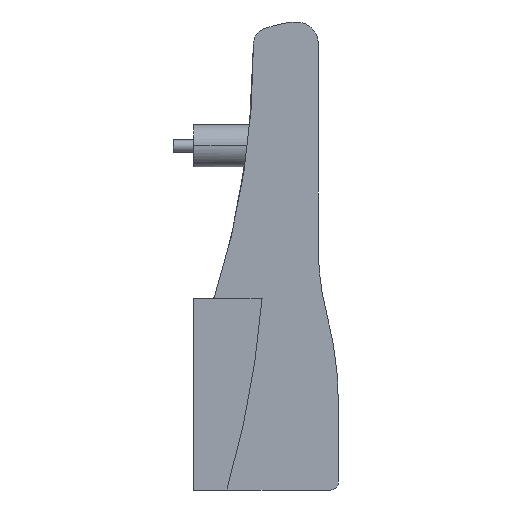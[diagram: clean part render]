
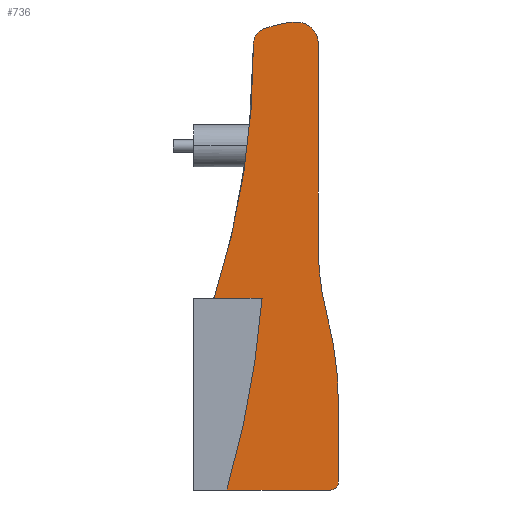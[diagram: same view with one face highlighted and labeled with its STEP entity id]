
A CAD part, front view. The second image highlights one B-rep face of the part: STEP entity #736.
In plain terms, the highlighted planar face has unit normal (0, -1, 0).
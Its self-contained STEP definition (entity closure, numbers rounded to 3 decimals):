
#7 = AXIS2_PLACEMENT_3D ( 'NONE', #2092, #2093, #2094 ) ;
#8 = AXIS2_PLACEMENT_3D ( 'NONE', #2087, #2088, #2089 ) ;
#11 = CIRCLE ( 'NONE', #61, 348.5 ) ;
#13 = VECTOR ( 'NONE', #2121, 1000. ) ;
#18 = AXIS2_PLACEMENT_3D ( 'NONE', #2082, #2083, #2084 ) ;
#32 = CIRCLE ( 'NONE', #18, 8. ) ;
#33 = CIRCLE ( 'NONE', #8, 40. ) ;
#48 = CIRCLE ( 'NONE', #7, 6. ) ;
#61 = AXIS2_PLACEMENT_3D ( 'NONE', #2126, #2127, #2128 ) ;
#75 = VECTOR ( 'NONE', #2078, 1000. ) ;
#83 = AXIS2_PLACEMENT_3D ( 'NONE', #2067, #2068, #2069 ) ;
#93 = CIRCLE ( 'NONE', #205, 99. ) ;
#101 = CIRCLE ( 'NONE', #325, 300. ) ;
#137 = VECTOR ( 'NONE', #1892, 1000. ) ;
#155 = CIRCLE ( 'NONE', #232, 3. ) ;
#179 = CIRCLE ( 'NONE', #83, 132.8 ) ;
#205 = AXIS2_PLACEMENT_3D ( 'NONE', #2073, #2074, #2075 ) ;
#226 = AXIS2_PLACEMENT_3D ( 'NONE', #2714, #2720, #2721 ) ;
#232 = AXIS2_PLACEMENT_3D ( 'NONE', #2052, #2053, #2054 ) ;
#235 = CIRCLE ( 'NONE', #306, 6. ) ;
#281 = VECTOR ( 'NONE', #2061, 1000. ) ;
#306 = AXIS2_PLACEMENT_3D ( 'NONE', #1562, #1563, #1564 ) ;
#325 = AXIS2_PLACEMENT_3D ( 'NONE', #1901, #1902, #1903 ) ;
#378 = EDGE_LOOP ( 'NONE', ( #1400, #1401, #1402, #1403, #1404, #1405, #1406, #1222, #589, #590, #591, #592, #594 ) ) ;
#589 = ORIENTED_EDGE ( 'NONE', *, *, #1499, .T. ) ;
#590 = ORIENTED_EDGE ( 'NONE', *, *, #770, .T. ) ;
#591 = ORIENTED_EDGE ( 'NONE', *, *, #1500, .T. ) ;
#592 = ORIENTED_EDGE ( 'NONE', *, *, #1453, .T. ) ;
#594 = ORIENTED_EDGE ( 'NONE', *, *, #1450, .T. ) ;
#736 = ADVANCED_FACE ( 'NONE', ( #2717 ), #2718, .T. ) ;
#770 = EDGE_CURVE ( 'NONE', #1160, #1150, #235, .T. ) ;
#1113 = VERTEX_POINT ( 'NONE', #1689 ) ;
#1120 = VERTEX_POINT ( 'NONE', #1696 ) ;
#1121 = VERTEX_POINT ( 'NONE', #1697 ) ;
#1122 = VERTEX_POINT ( 'NONE', #1698 ) ;
#1125 = VERTEX_POINT ( 'NONE', #1701 ) ;
#1127 = VERTEX_POINT ( 'NONE', #1703 ) ;
#1128 = VERTEX_POINT ( 'NONE', #1704 ) ;
#1150 = VERTEX_POINT ( 'NONE', #1726 ) ;
#1160 = VERTEX_POINT ( 'NONE', #1736 ) ;
#1184 = VERTEX_POINT ( 'NONE', #1760 ) ;
#1185 = VERTEX_POINT ( 'NONE', #1761 ) ;
#1205 = VERTEX_POINT ( 'NONE', #1781 ) ;
#1207 = VERTEX_POINT ( 'NONE', #1775 ) ;
#1222 = ORIENTED_EDGE ( 'NONE', *, *, #1498, .T. ) ;
#1400 = ORIENTED_EDGE ( 'NONE', *, *, #1512, .T. ) ;
#1401 = ORIENTED_EDGE ( 'NONE', *, *, #1510, .T. ) ;
#1402 = ORIENTED_EDGE ( 'NONE', *, *, #1487, .T. ) ;
#1403 = ORIENTED_EDGE ( 'NONE', *, *, #1490, .T. ) ;
#1404 = ORIENTED_EDGE ( 'NONE', *, *, #1492, .T. ) ;
#1405 = ORIENTED_EDGE ( 'NONE', *, *, #1494, .T. ) ;
#1406 = ORIENTED_EDGE ( 'NONE', *, *, #1496, .T. ) ;
#1450 = EDGE_CURVE ( 'NONE', #1185, #1205, #1879, .T. ) ;
#1453 = EDGE_CURVE ( 'NONE', #1184, #1185, #101, .T. ) ;
#1487 = EDGE_CURVE ( 'NONE', #1128, #1125, #155, .T. ) ;
#1490 = EDGE_CURVE ( 'NONE', #1125, #1207, #2051, .T. ) ;
#1492 = EDGE_CURVE ( 'NONE', #1207, #1127, #179, .T. ) ;
#1494 = EDGE_CURVE ( 'NONE', #1127, #1121, #93, .T. ) ;
#1496 = EDGE_CURVE ( 'NONE', #1121, #1120, #2072, .T. ) ;
#1498 = EDGE_CURVE ( 'NONE', #1120, #1122, #32, .T. ) ;
#1499 = EDGE_CURVE ( 'NONE', #1122, #1160, #33, .T. ) ;
#1500 = EDGE_CURVE ( 'NONE', #1150, #1184, #48, .T. ) ;
#1510 = EDGE_CURVE ( 'NONE', #1113, #1128, #2119, .T. ) ;
#1512 = EDGE_CURVE ( 'NONE', #1205, #1113, #11, .T. ) ;
#1562 = CARTESIAN_POINT ( 'NONE',  ( 28.05, -2.5, 145.25 ) ) ;
#1563 = DIRECTION ( 'NONE',  ( 0., -1., 0. ) ) ;
#1564 = DIRECTION ( 'NONE',  ( -1., 0., 0. ) ) ;
#1689 = CARTESIAN_POINT ( 'NONE',  ( 12.208, -2.5, -19.6 ) ) ;
#1696 = CARTESIAN_POINT ( 'NONE',  ( 46., -2.5, 145.4 ) ) ;
#1697 = CARTESIAN_POINT ( 'NONE',  ( 46., -2.5, 70.162 ) ) ;
#1698 = CARTESIAN_POINT ( 'NONE',  ( 37.465, -2.5, 153.382 ) ) ;
#1701 = CARTESIAN_POINT ( 'NONE',  ( 53.5, -2.5, -16.6 ) ) ;
#1703 = CARTESIAN_POINT ( 'NONE',  ( 49.203, -2.5, 45.183 ) ) ;
#1704 = CARTESIAN_POINT ( 'NONE',  ( 50.5, -2.5, -19.6 ) ) ;
#1726 = CARTESIAN_POINT ( 'NONE',  ( 22.05, -2.5, 145.25 ) ) ;
#1736 = CARTESIAN_POINT ( 'NONE',  ( 25.917, -2.5, 150.858 ) ) ;
#1760 = CARTESIAN_POINT ( 'NONE',  ( 22.05, -2.5, 145.222 ) ) ;
#1761 = CARTESIAN_POINT ( 'NONE',  ( 7.43, -2.5, 51.28 ) ) ;
#1775 = CARTESIAN_POINT ( 'NONE',  ( 53.5, -2.5, 11.675 ) ) ;
#1781 = CARTESIAN_POINT ( 'NONE',  ( 25.235, -2.5, 51.28 ) ) ;
#1879 = LINE ( 'NONE', #1891, #137 ) ;
#1891 = CARTESIAN_POINT ( 'NONE',  ( 25.235, -2.5, 51.28 ) ) ;
#1892 = DIRECTION ( 'NONE',  ( 1., 0., 0. ) ) ;
#1901 = CARTESIAN_POINT ( 'NONE',  ( -277.947, -2.5, 143.8 ) ) ;
#1902 = DIRECTION ( 'NONE',  ( 0., 1., 0. ) ) ;
#1903 = DIRECTION ( 'NONE',  ( -1., 0., 0. ) ) ;
#2051 = LINE ( 'NONE', #2060, #281 ) ;
#2052 = CARTESIAN_POINT ( 'NONE',  ( 50.5, -2.5, -16.6 ) ) ;
#2053 = DIRECTION ( 'NONE',  ( 0., -1., 0. ) ) ;
#2054 = DIRECTION ( 'NONE',  ( -1., 0., 0. ) ) ;
#2060 = CARTESIAN_POINT ( 'NONE',  ( 53.5, -2.5, -16.6 ) ) ;
#2061 = DIRECTION ( 'NONE',  ( 0., 0., 1. ) ) ;
#2067 = CARTESIAN_POINT ( 'NONE',  ( -79.3, -2.5, 11.675 ) ) ;
#2068 = DIRECTION ( 'NONE',  ( 0., -1., 0. ) ) ;
#2069 = DIRECTION ( 'NONE',  ( -1., 0., 0. ) ) ;
#2072 = LINE ( 'NONE', #2077, #75 ) ;
#2073 = CARTESIAN_POINT ( 'NONE',  ( 145., -2.5, 70.162 ) ) ;
#2074 = DIRECTION ( 'NONE',  ( 0., 1., 0. ) ) ;
#2075 = DIRECTION ( 'NONE',  ( -1., 0., 0. ) ) ;
#2077 = CARTESIAN_POINT ( 'NONE',  ( 46., -2.5, 70.162 ) ) ;
#2078 = DIRECTION ( 'NONE',  ( 0., 0., 1. ) ) ;
#2082 = CARTESIAN_POINT ( 'NONE',  ( 38., -2.5, 145.4 ) ) ;
#2083 = DIRECTION ( 'NONE',  ( 0., -1., 0. ) ) ;
#2084 = DIRECTION ( 'NONE',  ( -1., 0., 0. ) ) ;
#2087 = CARTESIAN_POINT ( 'NONE',  ( 40.138, -2.5, 113.472 ) ) ;
#2088 = DIRECTION ( 'NONE',  ( 0., -1., 0. ) ) ;
#2089 = DIRECTION ( 'NONE',  ( -1., 0., 0. ) ) ;
#2092 = CARTESIAN_POINT ( 'NONE',  ( 28.05, -2.5, 145.25 ) ) ;
#2093 = DIRECTION ( 'NONE',  ( 0., -1., 0. ) ) ;
#2094 = DIRECTION ( 'NONE',  ( -1., 0., 0. ) ) ;
#2119 = LINE ( 'NONE', #2120, #13 ) ;
#2120 = CARTESIAN_POINT ( 'NONE',  ( 50.5, -2.5, -19.6 ) ) ;
#2121 = DIRECTION ( 'NONE',  ( 1., 0., 0. ) ) ;
#2126 = CARTESIAN_POINT ( 'NONE',  ( -322.2, -2.5, 78.5 ) ) ;
#2127 = DIRECTION ( 'NONE',  ( 0., 1., 0. ) ) ;
#2128 = DIRECTION ( 'NONE',  ( -1., 0., 0. ) ) ;
#2714 = CARTESIAN_POINT ( 'NONE',  ( 11.5, -2.5, -19.6 ) ) ;
#2717 = FACE_OUTER_BOUND ( 'NONE', #378, .T. ) ;
#2718 = PLANE ( 'NONE',  #226 ) ;
#2720 = DIRECTION ( 'NONE',  ( 0., -1., 0. ) ) ;
#2721 = DIRECTION ( 'NONE',  ( -1., 0., 0. ) ) ;
